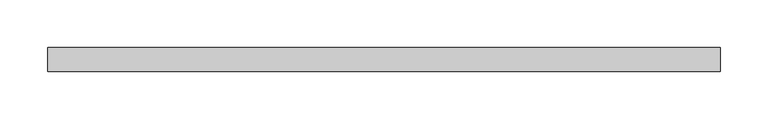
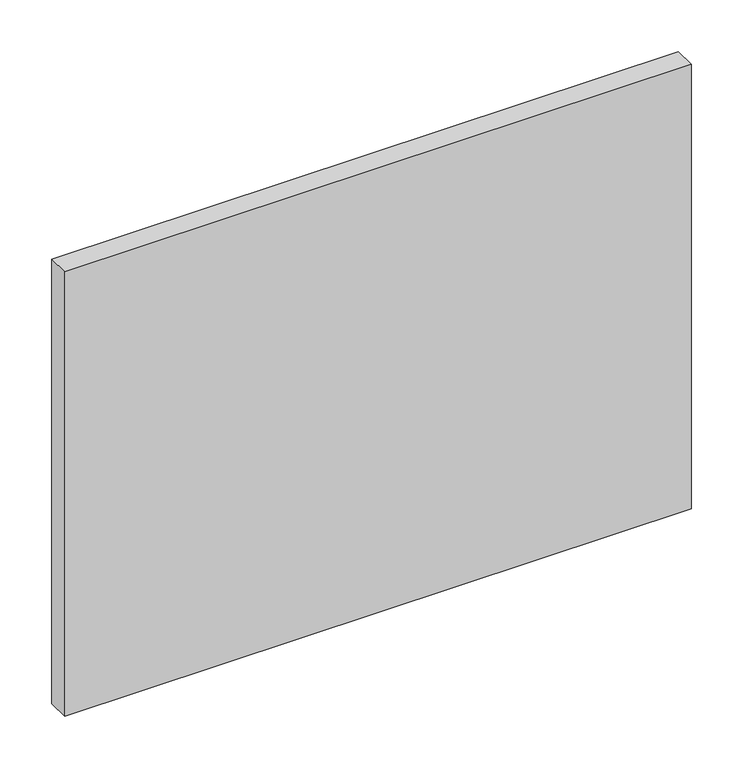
"""IFC4 building model written with IfcOpenShell, lengths in millimetres: plate geometry, 系统嵌板 : 玻璃."""

from ifc_helpers import new_model, si_unit, origin, origin_with_axes, place, context, project, spatial, polyline, outline, extrude, source, transform, mapped, element, save


def plate_3a849303(model_context):
    return source(origin(), model_context, "Body", "SweptSolid", [
        extrude(outline(polyline([(350.0000002, -12.5), (-350.0000002, -12.5), (-350.0000002, 12.5), (350.0000002, 12.5), (350.0000002, -12.5)])), origin_with_axes(), (0.0, 0.0, 1.0), 525.0),
    ])


if __name__ == "__main__":
    model = new_model("IFC4")
    model_context = context("Model", 3, world=origin())
    ifc_project = project(units=[si_unit("LENGTHUNIT", "METRE", prefix="MILLI")], contexts=[model_context])
    site = spatial("IfcSite", under=ifc_project)
    building = spatial("IfcBuilding", under=site)
    placement = place(None, origin())
    plate_shape = plate_3a849303(model_context)
    element("IfcPlate", 1, ObjectType="系统嵌板 : 玻璃", at=placement, inside=building, context=model_context, shape_type="MappedRepresentation", body=[
        mapped(plate_shape, transform((0.0, 0.0, 0.0), x_axis=(1.0, 0.0, 0.0), y_axis=(0.0, 1.0, 0.0), z_axis=(0.0, 0.0, 1.0))),
    ])
    save(model, "model.ifc")
